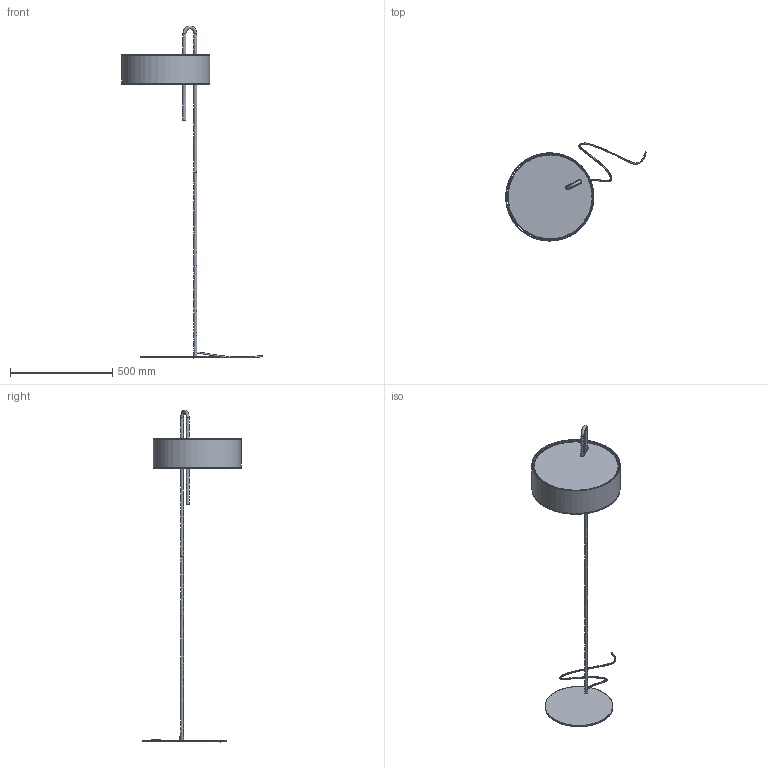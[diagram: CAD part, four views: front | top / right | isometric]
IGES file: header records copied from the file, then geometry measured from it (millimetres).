
Global section: file name: C:\Users\EQUIPO\Desktop\MODELADOS 3D ACB EUROLUCE 2019\Clip\clip floor lamp\CLIP floor lamp. (.iges).igs; native system: Rhinoceros ( Oct  8 2013 ); preprocessor: Trout Lake IGES 012 Oct  8 2013; date: 190326.181807; units: millimetre
Bounding box: 686.11 x 480.77 x 1620.52 mm (x, y, z)
Surface area: 1180687.5 mm2 (no closed solid volume)
Topology: 0 solids, 0 shells, 98 faces, 800 edges, 743 vertices
Faces by surface type: bspline 98
